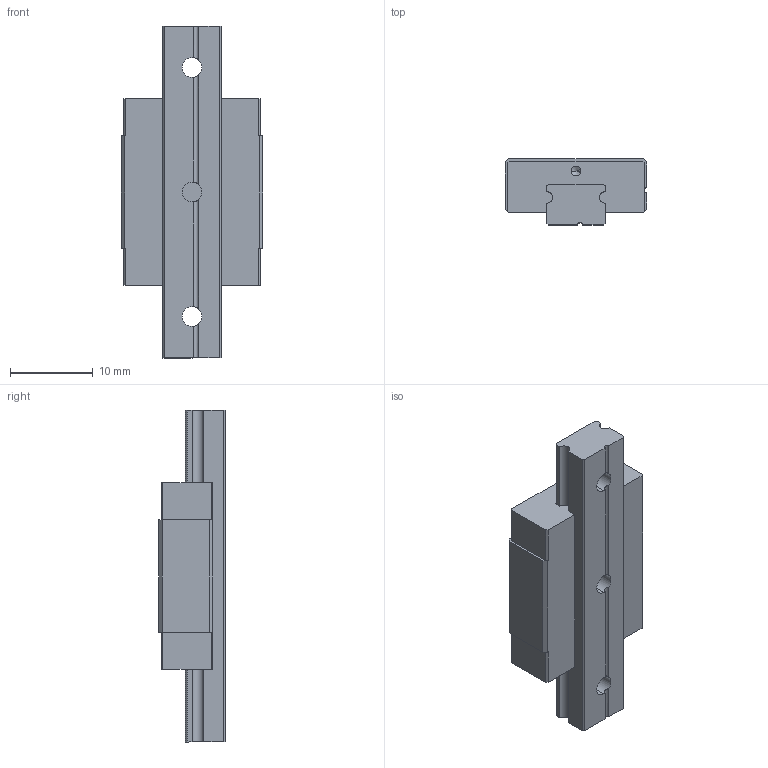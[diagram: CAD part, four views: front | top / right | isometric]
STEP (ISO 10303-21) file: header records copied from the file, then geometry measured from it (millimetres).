
FILE_DESCRIPTION (( 'STEP AP203' ), '1' );
FILE_NAME ('MGN7C_1.step', '2026-06-30T11:52:56', ( '' ), ( '' ), 'SwSTEP 2.0', 'SolidWorks 2024', '' );
FILE_SCHEMA (( 'CONFIG_CONTROL_DESIGN' ));
Length unit declared in the file: millimetre
Products named in the file (1): MGN7C_1
Bounding box: 17 x 8 x 40 mm (x, y, z)
Volume: 3012.6 mm3; surface area: 2680.5 mm2
Topology: 2 solids, 2 shells, 99 faces, 269 edges, 168 vertices
Faces by surface type: plane 51, cylinder 36, cone 12
Entity records: 3152 total; most frequent: CARTESIAN_POINT 579, DIRECTION 523, ORIENTED_EDGE 514, EDGE_CURVE 257, VECTOR 179, LINE 179, AXIS2_PLACEMENT_3D 172, VERTEX_POINT 168
